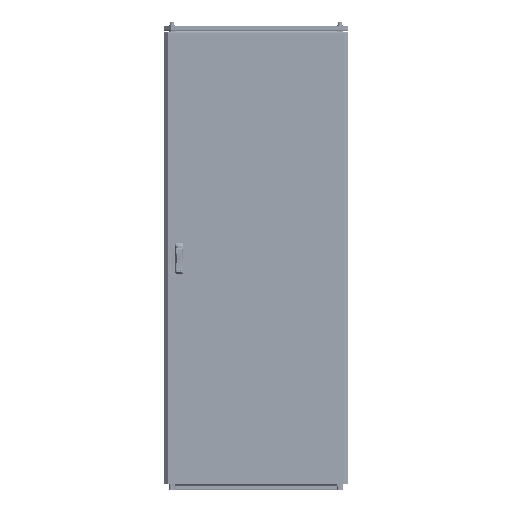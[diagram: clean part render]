
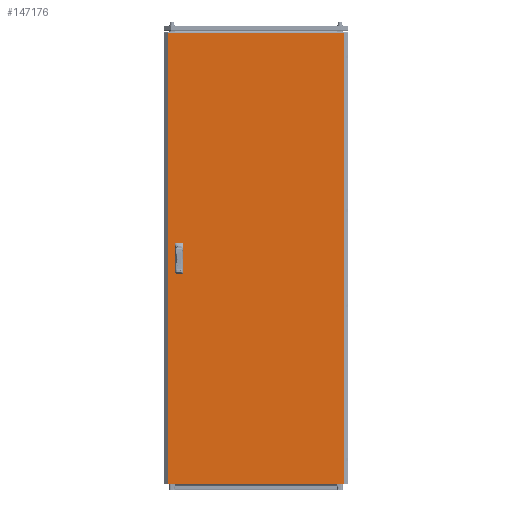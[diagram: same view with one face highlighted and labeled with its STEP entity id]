
A CAD part, top view. The second image highlights one B-rep face of the part: STEP entity #147176.
In plain terms, the highlighted planar face has unit normal (0, 0, 1).
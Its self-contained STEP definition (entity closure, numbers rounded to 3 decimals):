
#4360 = ORIENTED_EDGE ( 'NONE', *, *, #156224, .T. ) ;
#5269 = VECTOR ( 'NONE', #125618, 1000. ) ;
#7073 = DIRECTION ( 'NONE',  ( 1., 0., 0. ) ) ;
#8252 = AXIS2_PLACEMENT_3D ( 'NONE', #99749, #121310, #177262 ) ;
#8296 = PLANE ( 'NONE',  #8252 ) ;
#9642 = VECTOR ( 'NONE', #242608, 1000. ) ;
#12982 = LINE ( 'NONE', #90446, #173247 ) ;
#13180 = CARTESIAN_POINT ( 'NONE',  ( -342.5, 62.5, 0. ) ) ;
#13492 = ORIENTED_EDGE ( 'NONE', *, *, #173057, .F. ) ;
#20641 = CARTESIAN_POINT ( 'NONE',  ( -342.5, 62.5, 0. ) ) ;
#26946 = EDGE_CURVE ( 'NONE', #43481, #207735, #28865, .T. ) ;
#28865 = LINE ( 'NONE', #124125, #159832 ) ;
#32763 = LINE ( 'NONE', #89928, #119882 ) ;
#33823 = VECTOR ( 'NONE', #170875, 1000. ) ;
#38880 = VERTEX_POINT ( 'NONE', #185605 ) ;
#43481 = VERTEX_POINT ( 'NONE', #163339 ) ;
#49425 = LINE ( 'NONE', #220920, #5269 ) ;
#50064 = DIRECTION ( 'NONE',  ( -1., 0., 0. ) ) ;
#50812 = LINE ( 'NONE', #181703, #9642 ) ;
#51543 = CARTESIAN_POINT ( 'NONE',  ( -317.5, -12.5, 0. ) ) ;
#55068 = ORIENTED_EDGE ( 'NONE', *, *, #225736, .F. ) ;
#63584 = VECTOR ( 'NONE', #122012, 1000. ) ;
#65785 = CARTESIAN_POINT ( 'NONE',  ( 377.875, 969.5, 0. ) ) ;
#68182 = VERTEX_POINT ( 'NONE', #196701 ) ;
#72152 = DIRECTION ( 'NONE',  ( 0., 1., 0. ) ) ;
#73633 = EDGE_CURVE ( 'NONE', #68182, #164060, #49425, .T. ) ;
#76566 = VERTEX_POINT ( 'NONE', #88640 ) ;
#83901 = LINE ( 'NONE', #99173, #63584 ) ;
#87891 = VERTEX_POINT ( 'NONE', #249943 ) ;
#88640 = CARTESIAN_POINT ( 'NONE',  ( -377.875, 969.5, 0. ) ) ;
#88917 = VECTOR ( 'NONE', #184334, 1000. ) ;
#89928 = CARTESIAN_POINT ( 'NONE',  ( -317.5, 12.5, 0. ) ) ;
#90446 = CARTESIAN_POINT ( 'NONE',  ( -377.875, 969.5, 0. ) ) ;
#91132 = ORIENTED_EDGE ( 'NONE', *, *, #118311, .F. ) ;
#91692 = ORIENTED_EDGE ( 'NONE', *, *, #93323, .F. ) ;
#91705 = DIRECTION ( 'NONE',  ( -1., 0., 0. ) ) ;
#93323 = EDGE_CURVE ( 'NONE', #87891, #151777, #32763, .T. ) ;
#95292 = LINE ( 'NONE', #170328, #129507 ) ;
#97769 = VERTEX_POINT ( 'NONE', #20641 ) ;
#99173 = CARTESIAN_POINT ( 'NONE',  ( -342.5, 12.5, 0. ) ) ;
#99749 = CARTESIAN_POINT ( 'NONE',  ( 0., 0., 0. ) ) ;
#106836 = LINE ( 'NONE', #110592, #88917 ) ;
#110293 = ORIENTED_EDGE ( 'NONE', *, *, #142805, .F. ) ;
#110592 = CARTESIAN_POINT ( 'NONE',  ( -342.5, -62.5, 0. ) ) ;
#114885 = CARTESIAN_POINT ( 'NONE',  ( -377.875, -969.5, 0. ) ) ;
#116250 = CARTESIAN_POINT ( 'NONE',  ( -377.875, -969.5, 0. ) ) ;
#118311 = EDGE_CURVE ( 'NONE', #207735, #235655, #106836, .T. ) ;
#119882 = VECTOR ( 'NONE', #72152, 1000. ) ;
#121310 = DIRECTION ( 'NONE',  ( 0., 0., -1. ) ) ;
#122012 = DIRECTION ( 'NONE',  ( 0., -1., 0. ) ) ;
#123225 = CARTESIAN_POINT ( 'NONE',  ( -317.5, 62.5, 0. ) ) ;
#124125 = CARTESIAN_POINT ( 'NONE',  ( -342.5, -62.5, 0. ) ) ;
#125072 = ORIENTED_EDGE ( 'NONE', *, *, #137729, .T. ) ;
#125118 = FACE_BOUND ( 'NONE', #156008, .T. ) ;
#125618 = DIRECTION ( 'NONE',  ( 0., 1., 0. ) ) ;
#127489 = LINE ( 'NONE', #13180, #156902 ) ;
#129507 = VECTOR ( 'NONE', #227484, 1000. ) ;
#137729 = EDGE_CURVE ( 'NONE', #76566, #159737, #231738, .T. ) ;
#142382 = ORIENTED_EDGE ( 'NONE', *, *, #73633, .T. ) ;
#142805 = EDGE_CURVE ( 'NONE', #184095, #43481, #191308, .T. ) ;
#143314 = EDGE_LOOP ( 'NONE', ( #142382, #4360, #125072, #239483 ) ) ;
#147176 = ADVANCED_FACE ( 'NONE', ( #182308, #125118, #160696 ), #8296, .F. ) ;
#151777 = VERTEX_POINT ( 'NONE', #123225 ) ;
#152632 = CARTESIAN_POINT ( 'NONE',  ( -317.5, -62.5, 0. ) ) ;
#156008 = EDGE_LOOP ( 'NONE', ( #110293, #233546, #91132, #177897 ) ) ;
#156224 = EDGE_CURVE ( 'NONE', #164060, #76566, #12982, .T. ) ;
#156902 = VECTOR ( 'NONE', #50064, 1000. ) ;
#157620 = VECTOR ( 'NONE', #229422, 1000. ) ;
#158915 = VECTOR ( 'NONE', #7073, 1000. ) ;
#159737 = VERTEX_POINT ( 'NONE', #116250 ) ;
#159832 = VECTOR ( 'NONE', #206608, 1000. ) ;
#160696 = FACE_OUTER_BOUND ( 'NONE', #143314, .T. ) ;
#162896 = EDGE_CURVE ( 'NONE', #235655, #184095, #50812, .T. ) ;
#163339 = CARTESIAN_POINT ( 'NONE',  ( -342.5, -12.5, 0. ) ) ;
#164060 = VERTEX_POINT ( 'NONE', #65785 ) ;
#170328 = CARTESIAN_POINT ( 'NONE',  ( -342.5, 12.5, 0. ) ) ;
#170875 = DIRECTION ( 'NONE',  ( 0., -1., 0. ) ) ;
#173057 = EDGE_CURVE ( 'NONE', #97769, #38880, #83901, .T. ) ;
#173247 = VECTOR ( 'NONE', #91705, 1000. ) ;
#173540 = EDGE_LOOP ( 'NONE', ( #194128, #91692, #55068, #13492 ) ) ;
#177262 = DIRECTION ( 'NONE',  ( -1., 0., 0. ) ) ;
#177897 = ORIENTED_EDGE ( 'NONE', *, *, #26946, .F. ) ;
#179738 = EDGE_CURVE ( 'NONE', #151777, #97769, #127489, .T. ) ;
#181703 = CARTESIAN_POINT ( 'NONE',  ( -317.5, -62.5, 0. ) ) ;
#182308 = FACE_BOUND ( 'NONE', #173540, .T. ) ;
#183585 = CARTESIAN_POINT ( 'NONE',  ( -377.875, -969.5, 0. ) ) ;
#184095 = VERTEX_POINT ( 'NONE', #51543 ) ;
#184334 = DIRECTION ( 'NONE',  ( 1., 0., 0. ) ) ;
#185605 = CARTESIAN_POINT ( 'NONE',  ( -342.5, 12.5, 0. ) ) ;
#191308 = LINE ( 'NONE', #247240, #157620 ) ;
#194128 = ORIENTED_EDGE ( 'NONE', *, *, #179738, .F. ) ;
#196701 = CARTESIAN_POINT ( 'NONE',  ( 377.875, -969.5, 0. ) ) ;
#206608 = DIRECTION ( 'NONE',  ( 0., -1., 0. ) ) ;
#207735 = VERTEX_POINT ( 'NONE', #223924 ) ;
#208221 = EDGE_CURVE ( 'NONE', #159737, #68182, #238243, .T. ) ;
#220920 = CARTESIAN_POINT ( 'NONE',  ( 377.875, -969.5, 0. ) ) ;
#223924 = CARTESIAN_POINT ( 'NONE',  ( -342.5, -62.5, 0. ) ) ;
#225736 = EDGE_CURVE ( 'NONE', #38880, #87891, #95292, .T. ) ;
#227484 = DIRECTION ( 'NONE',  ( 1., 0., 0. ) ) ;
#229422 = DIRECTION ( 'NONE',  ( -1., 0., 0. ) ) ;
#231738 = LINE ( 'NONE', #114885, #33823 ) ;
#233546 = ORIENTED_EDGE ( 'NONE', *, *, #162896, .F. ) ;
#235655 = VERTEX_POINT ( 'NONE', #152632 ) ;
#238243 = LINE ( 'NONE', #183585, #158915 ) ;
#239483 = ORIENTED_EDGE ( 'NONE', *, *, #208221, .T. ) ;
#242608 = DIRECTION ( 'NONE',  ( 0., 1., 0. ) ) ;
#247240 = CARTESIAN_POINT ( 'NONE',  ( -342.5, -12.5, 0. ) ) ;
#249943 = CARTESIAN_POINT ( 'NONE',  ( -317.5, 12.5, 0. ) ) ;
